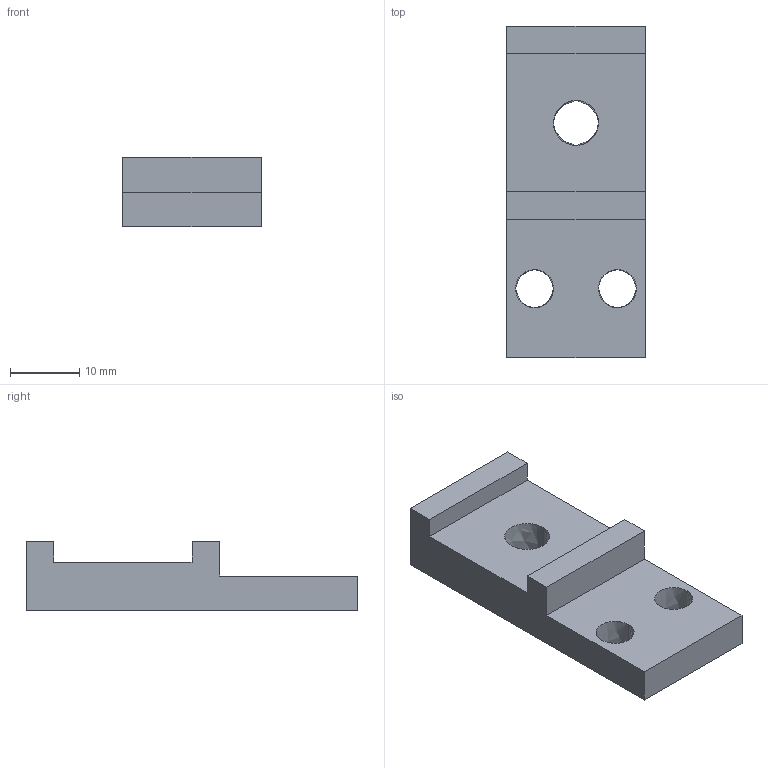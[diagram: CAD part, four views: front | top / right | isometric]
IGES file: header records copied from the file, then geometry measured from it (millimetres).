
Start section:  PTC IGES file: 370733_fck-1002.igs
Global section: file name: 370733_fck-1002.igs; native system: Pro/ENGINEER by Parametric Technology Corporation; preprocessor: 2004090; author: KAIHATSU01; organization: Unknown; date: 061017.114055; units: millimetre
Bounding box: 20 x 48 x 10 mm (x, y, z)
Volume: 5929.2 mm3; surface area: 3234.6 mm2
Topology: 1 solids, 1 shells, 18 faces, 48 edges, 32 vertices
Faces by surface type: bspline 18
